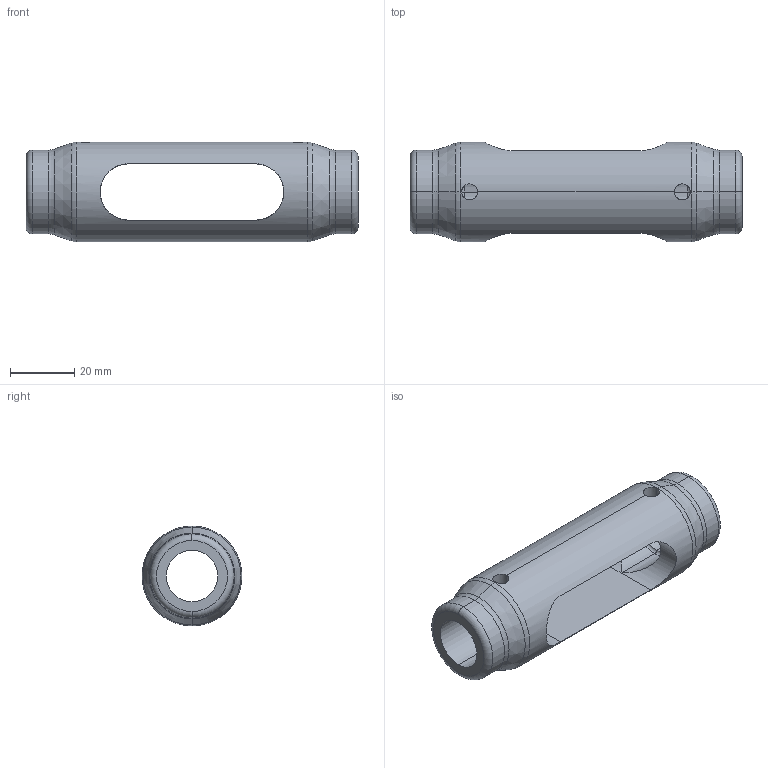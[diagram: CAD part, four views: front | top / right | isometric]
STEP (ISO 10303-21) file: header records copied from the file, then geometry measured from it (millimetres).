
FILE_DESCRIPTION (( 'STEP AP203' ), '1' );
FILE_NAME ('Kreuzmuffe M16.STEP', '2018-03-14T05:18:33', ( 'install' ), ( 'Hewlett-Packard Company' ), 'SwSTEP 2.0', 'SolidWorks 2017', '' );
FILE_SCHEMA (( 'CONFIG_CONTROL_DESIGN' ));
Length unit declared in the file: millimetre
Products named in the file (1): Kreuzmuffe M16
Bounding box: 103 x 31 x 31 mm (x, y, z)
Volume: 34380.6 mm3; surface area: 14155.7 mm2
Topology: 1 solids, 1 shells, 46 faces, 106 edges, 56 vertices
Faces by surface type: cylinder 22, torus 16, cone 4, plane 4
Entity records: 1765 total; most frequent: CARTESIAN_POINT 653, DIRECTION 230, ORIENTED_EDGE 212, EDGE_CURVE 106, AXIS2_PLACEMENT_3D 97, VERTEX_POINT 56, EDGE_LOOP 50, CIRCLE 50
